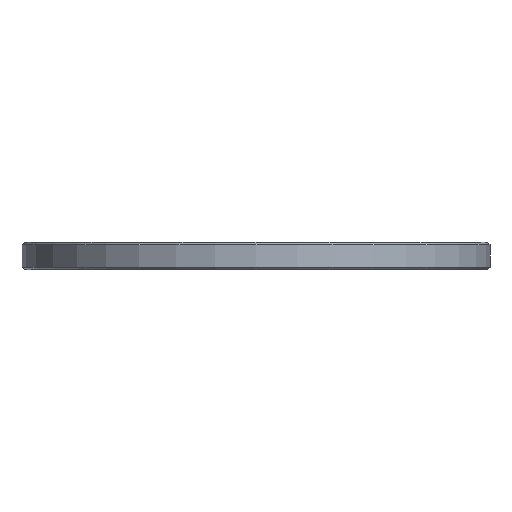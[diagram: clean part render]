
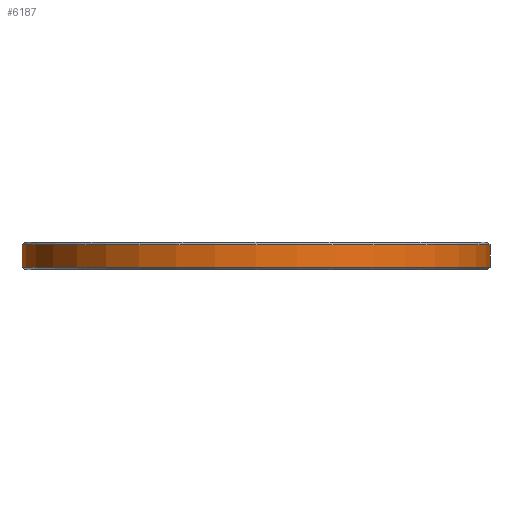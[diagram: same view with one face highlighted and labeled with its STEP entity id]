
A CAD part, front view. The second image highlights one B-rep face of the part: STEP entity #6187.
In plain terms, the highlighted cylindrical face has radius 26.562 mm (diameter 53.125 mm), a full revolution.
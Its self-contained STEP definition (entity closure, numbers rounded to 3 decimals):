
#62=CYLINDRICAL_SURFACE('',#6571,26.563);
#642=FACE_OUTER_BOUND('',#993,.T.);
#993=EDGE_LOOP('',(#5767,#5768,#5769,#5770));
#1064=CIRCLE('',#6570,26.563);
#1065=CIRCLE('',#6572,26.563);
#1860=LINE('',#9856,#2663);
#2663=VECTOR('',#8089,26.563);
#3230=VERTEX_POINT('',#9850);
#3231=VERTEX_POINT('',#9854);
#4077=EDGE_CURVE('',#3230,#3230,#1064,.T.);
#4079=EDGE_CURVE('',#3231,#3231,#1065,.T.);
#4080=EDGE_CURVE('',#3231,#3230,#1860,.T.);
#5767=ORIENTED_EDGE('',*,*,#4079,.F.);
#5768=ORIENTED_EDGE('',*,*,#4080,.T.);
#5769=ORIENTED_EDGE('',*,*,#4077,.F.);
#5770=ORIENTED_EDGE('',*,*,#4080,.F.);
#6187=ADVANCED_FACE('',(#642),#62,.T.);
#6570=AXIS2_PLACEMENT_3D('',#9851,#8082,#8083);
#6571=AXIS2_PLACEMENT_3D('',#9853,#8085,#8086);
#6572=AXIS2_PLACEMENT_3D('',#9855,#8087,#8088);
#8082=DIRECTION('center_axis',(0.,0.,-1.));
#8083=DIRECTION('ref_axis',(1.,0.,0.));
#8085=DIRECTION('center_axis',(0.,0.,1.));
#8086=DIRECTION('ref_axis',(1.,0.,0.));
#8087=DIRECTION('center_axis',(0.,0.,1.));
#8088=DIRECTION('ref_axis',(1.,0.,0.));
#8089=DIRECTION('',(0.,0.,-1.));
#9850=CARTESIAN_POINT('',(-26.563,0.,0.3));
#9851=CARTESIAN_POINT('Origin',(0.,0.,0.3));
#9853=CARTESIAN_POINT('Origin',(0.,0.,0.));
#9854=CARTESIAN_POINT('',(-26.563,0.,2.825));
#9855=CARTESIAN_POINT('Origin',(0.,0.,2.825));
#9856=CARTESIAN_POINT('',(-26.563,0.,0.));
